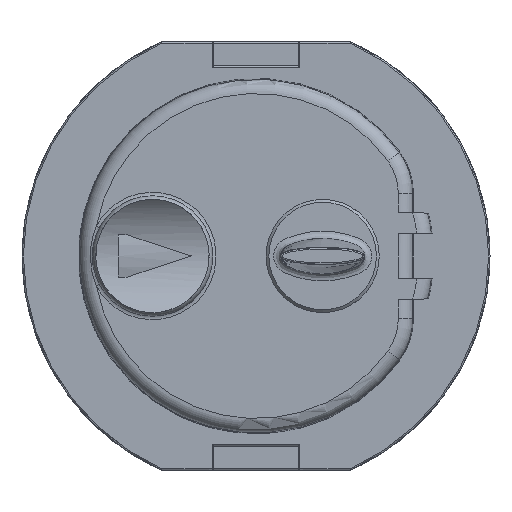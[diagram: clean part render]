
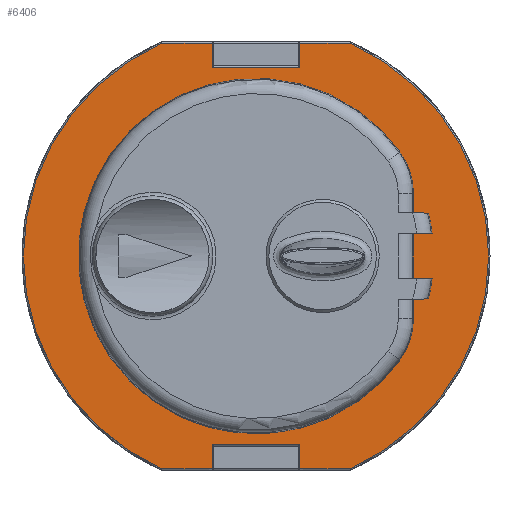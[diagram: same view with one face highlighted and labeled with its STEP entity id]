
A CAD part, front view. The second image highlights one B-rep face of the part: STEP entity #6406.
In plain terms, the highlighted planar face has unit normal (0, -1, 0).
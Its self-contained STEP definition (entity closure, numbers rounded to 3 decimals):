
#4102=LINE('',#19953,#4466);
#4104=LINE('',#19964,#4468);
#4105=LINE('',#19978,#4469);
#4108=LINE('',#19984,#4472);
#4110=LINE('',#19989,#4474);
#4112=LINE('',#19993,#4476);
#4114=LINE('',#20004,#4478);
#4116=LINE('',#20010,#4480);
#4118=LINE('',#20024,#4482);
#4120=LINE('',#20027,#4484);
#4150=LINE('',#20229,#4514);
#4152=LINE('',#20240,#4516);
#4156=LINE('',#20250,#4520);
#4158=LINE('',#20261,#4522);
#4161=LINE('',#20271,#4525);
#4163=LINE('',#20279,#4527);
#4165=LINE('',#20283,#4529);
#4466=VECTOR('',#15390,1.);
#4468=VECTOR('',#15396,1.);
#4469=VECTOR('',#15407,1.);
#4472=VECTOR('',#15414,1.);
#4474=VECTOR('',#15420,1.);
#4476=VECTOR('',#15424,1.);
#4478=VECTOR('',#15430,1.);
#4480=VECTOR('',#15436,1.);
#4482=VECTOR('',#15448,1.);
#4484=VECTOR('',#15452,1.);
#4514=VECTOR('',#15626,1.);
#4516=VECTOR('',#15630,1.);
#4520=VECTOR('',#15640,1.);
#4522=VECTOR('',#15644,1.);
#4525=VECTOR('',#15649,1.);
#4527=VECTOR('',#15653,1.);
#4529=VECTOR('',#15657,1.);
#5467=PLANE('',#13421);
#6406=ADVANCED_FACE('',(#6609,#6610),#5467,.T.);
#6609=FACE_BOUND('',#7177,.T.);
#6610=FACE_BOUND('',#7178,.T.);
#7177=EDGE_LOOP('',(#9682,#9683,#9684,#9685,#9686,#9687,#9688,#9689,#9690,
#9691,#9692,#9693));
#7178=EDGE_LOOP('',(#9694,#9695,#9696,#9697,#9698,#9699,#9700,#9701,#9702,
#9703,#9704,#9705));
#9682=ORIENTED_EDGE('',*,*,#12094,.F.);
#9683=ORIENTED_EDGE('',*,*,#12074,.F.);
#9684=ORIENTED_EDGE('',*,*,#12071,.T.);
#9685=ORIENTED_EDGE('',*,*,#12069,.T.);
#9686=ORIENTED_EDGE('',*,*,#12102,.F.);
#9687=ORIENTED_EDGE('',*,*,#12077,.T.);
#9688=ORIENTED_EDGE('',*,*,#12079,.F.);
#9689=ORIENTED_EDGE('',*,*,#12082,.T.);
#9690=ORIENTED_EDGE('',*,*,#12092,.F.);
#9691=ORIENTED_EDGE('',*,*,#12086,.F.);
#9692=ORIENTED_EDGE('',*,*,#12091,.T.);
#9693=ORIENTED_EDGE('',*,*,#12089,.T.);
#9694=ORIENTED_EDGE('',*,*,#11959,.T.);
#9695=ORIENTED_EDGE('',*,*,#11952,.T.);
#9696=ORIENTED_EDGE('',*,*,#11956,.T.);
#9697=ORIENTED_EDGE('',*,*,#11961,.T.);
#9698=ORIENTED_EDGE('',*,*,#11968,.T.);
#9699=ORIENTED_EDGE('',*,*,#11974,.T.);
#9700=ORIENTED_EDGE('',*,*,#11979,.T.);
#9701=ORIENTED_EDGE('',*,*,#11985,.T.);
#9702=ORIENTED_EDGE('',*,*,#11983,.T.);
#9703=ORIENTED_EDGE('',*,*,#11977,.T.);
#9704=ORIENTED_EDGE('',*,*,#11970,.T.);
#9705=ORIENTED_EDGE('',*,*,#11965,.T.);
#10699=VERTEX_POINT('',#19952);
#10700=VERTEX_POINT('',#19954);
#10702=VERTEX_POINT('',#19963);
#10703=VERTEX_POINT('',#19970);
#10706=VERTEX_POINT('',#19977);
#10707=VERTEX_POINT('',#19982);
#10708=VERTEX_POINT('',#19988);
#10710=VERTEX_POINT('',#19994);
#10712=VERTEX_POINT('',#20003);
#10713=VERTEX_POINT('',#20007);
#10716=VERTEX_POINT('',#20017);
#10717=VERTEX_POINT('',#20022);
#10767=VERTEX_POINT('',#20222);
#10768=VERTEX_POINT('',#20224);
#10769=VERTEX_POINT('',#20228);
#10770=VERTEX_POINT('',#20238);
#10771=VERTEX_POINT('',#20243);
#10772=VERTEX_POINT('',#20245);
#10773=VERTEX_POINT('',#20249);
#10774=VERTEX_POINT('',#20260);
#10775=VERTEX_POINT('',#20267);
#10776=VERTEX_POINT('',#20270);
#10777=VERTEX_POINT('',#20278);
#10778=VERTEX_POINT('',#20280);
#11952=EDGE_CURVE('',#10700,#10699,#4102,.T.);
#11956=EDGE_CURVE('',#10699,#10702,#4104,.T.);
#11959=EDGE_CURVE('',#10703,#10700,#12424,.T.);
#11961=EDGE_CURVE('',#10702,#10706,#4105,.T.);
#11965=EDGE_CURVE('',#10707,#10703,#4108,.T.);
#11968=EDGE_CURVE('',#10706,#10708,#4110,.T.);
#11970=EDGE_CURVE('',#10710,#10707,#4112,.T.);
#11974=EDGE_CURVE('',#10708,#10712,#4114,.T.);
#11977=EDGE_CURVE('',#10713,#10710,#4116,.T.);
#11979=EDGE_CURVE('',#10712,#10716,#12425,.T.);
#11983=EDGE_CURVE('',#10717,#10713,#4118,.T.);
#11985=EDGE_CURVE('',#10716,#10717,#4120,.T.);
#12069=EDGE_CURVE('',#10767,#10768,#12466,.T.);
#12071=EDGE_CURVE('',#10769,#10767,#4150,.T.);
#12074=EDGE_CURVE('',#10769,#10770,#4152,.T.);
#12077=EDGE_CURVE('',#10771,#10772,#12467,.T.);
#12079=EDGE_CURVE('',#10773,#10772,#4156,.T.);
#12082=EDGE_CURVE('',#10773,#10774,#4158,.T.);
#12086=EDGE_CURVE('',#10776,#10775,#4161,.T.);
#12089=EDGE_CURVE('',#10778,#10777,#4163,.T.);
#12091=EDGE_CURVE('',#10776,#10778,#4165,.T.);
#12092=EDGE_CURVE('',#10775,#10774,#12468,.T.);
#12094=EDGE_CURVE('',#10770,#10777,#12470,.T.);
#12102=EDGE_CURVE('',#10771,#10768,#12472,.T.);
#12424=CIRCLE('',#13309,16.4);
#12425=CIRCLE('',#13322,16.4);
#12466=CIRCLE('',#13397,5.);
#12467=CIRCLE('',#13401,5.);
#12468=CIRCLE('',#13408,12.525);
#12470=CIRCLE('',#13412,12.525);
#12472=CIRCLE('',#13420,12.525);
#13309=AXIS2_PLACEMENT_3D('',#19973,#15401,#15402);
#13322=AXIS2_PLACEMENT_3D('',#20018,#15439,#15440);
#13397=AXIS2_PLACEMENT_3D('',#20225,#15621,#15622);
#13401=AXIS2_PLACEMENT_3D('',#20246,#15635,#15636);
#13408=AXIS2_PLACEMENT_3D('',#20285,#15660,#15661);
#13412=AXIS2_PLACEMENT_3D('',#20290,#15668,#15669);
#13420=AXIS2_PLACEMENT_3D('',#20308,#15689,#15690);
#13421=AXIS2_PLACEMENT_3D('',#20309,#15691,#15692);
#15390=DIRECTION('',(-1.,0.,0.));
#15396=DIRECTION('',(0.,0.,-1.));
#15401=DIRECTION('',(0.,-1.,0.));
#15402=DIRECTION('',(0.,0.,-1.));
#15407=DIRECTION('',(-1.,0.,0.));
#15414=DIRECTION('',(1.,0.,0.));
#15420=DIRECTION('',(0.,0.,1.));
#15424=DIRECTION('',(0.,0.,-1.));
#15430=DIRECTION('',(-1.,0.,0.));
#15436=DIRECTION('',(1.,0.,0.));
#15439=DIRECTION('',(0.,-1.,0.));
#15440=DIRECTION('',(0.,0.,-1.));
#15448=DIRECTION('',(0.,0.,1.));
#15452=DIRECTION('',(1.,0.,0.));
#15621=DIRECTION('',(0.,1.,0.));
#15622=DIRECTION('',(0.,0.,-1.));
#15626=DIRECTION('',(0.,0.,-1.));
#15630=DIRECTION('',(1.,0.,0.026));
#15635=DIRECTION('',(0.,1.,0.));
#15636=DIRECTION('',(0.,0.,-1.));
#15640=DIRECTION('',(0.,0.,1.));
#15644=DIRECTION('',(1.,0.,-0.026));
#15649=DIRECTION('',(1.,0.,0.026));
#15653=DIRECTION('',(1.,0.,-0.026));
#15657=DIRECTION('',(0.,0.,-1.));
#15660=DIRECTION('',(0.,-1.,0.));
#15661=DIRECTION('',(0.,0.,-1.));
#15668=DIRECTION('',(0.,-1.,0.));
#15669=DIRECTION('',(0.,0.,-1.));
#15689=DIRECTION('',(0.,-1.,0.));
#15690=DIRECTION('',(0.,0.,-1.));
#15691=DIRECTION('',(0.,-1.,0.));
#15692=DIRECTION('',(0.,0.,-1.));
#19952=CARTESIAN_POINT('',(3.1,0.6,15.));
#19953=CARTESIAN_POINT('',(-12.525,0.6,15.));
#19954=CARTESIAN_POINT('',(6.63,0.6,15.));
#19963=CARTESIAN_POINT('',(3.1,0.6,13.3));
#19964=CARTESIAN_POINT('',(3.1,0.6,0.));
#19970=CARTESIAN_POINT('',(6.63,0.6,-15.));
#19973=CARTESIAN_POINT('',(0.,0.6,0.));
#19977=CARTESIAN_POINT('',(-3.1,0.6,13.3));
#19978=CARTESIAN_POINT('',(-12.525,0.6,13.3));
#19982=CARTESIAN_POINT('',(3.1,0.6,-15.));
#19984=CARTESIAN_POINT('',(-12.525,0.6,-15.));
#19988=CARTESIAN_POINT('',(-3.1,0.6,15.));
#19989=CARTESIAN_POINT('',(-3.1,0.6,15.1));
#19993=CARTESIAN_POINT('',(3.1,0.6,-15.1));
#19994=CARTESIAN_POINT('',(3.1,0.6,-13.3));
#20003=CARTESIAN_POINT('',(-6.63,0.6,15.));
#20004=CARTESIAN_POINT('',(-12.525,0.6,15.));
#20007=CARTESIAN_POINT('',(-3.1,0.6,-13.3));
#20010=CARTESIAN_POINT('',(-12.525,0.6,-13.3));
#20017=CARTESIAN_POINT('',(-6.63,0.6,-15.));
#20018=CARTESIAN_POINT('',(0.,0.6,0.));
#20022=CARTESIAN_POINT('',(-3.1,0.6,-15.));
#20024=CARTESIAN_POINT('',(-3.1,0.6,0.));
#20027=CARTESIAN_POINT('',(-12.525,0.6,-15.));
#20222=CARTESIAN_POINT('',(11.1,0.6,-4.406));
#20224=CARTESIAN_POINT('',(10.153,0.6,-7.334));
#20225=CARTESIAN_POINT('',(6.1,0.6,-4.406));
#20228=CARTESIAN_POINT('',(11.1,0.6,-3.05));
#20229=CARTESIAN_POINT('',(11.1,0.6,0.));
#20238=CARTESIAN_POINT('',(12.155,0.6,-3.022));
#20240=CARTESIAN_POINT('',(11.1,0.6,-3.05));
#20243=CARTESIAN_POINT('',(10.153,0.6,7.334));
#20245=CARTESIAN_POINT('',(11.1,0.6,4.406));
#20246=CARTESIAN_POINT('',(6.1,0.6,4.406));
#20249=CARTESIAN_POINT('',(11.1,0.6,3.05));
#20250=CARTESIAN_POINT('',(11.1,0.6,0.));
#20260=CARTESIAN_POINT('',(12.155,0.6,3.022));
#20261=CARTESIAN_POINT('',(-12.429,0.6,3.666));
#20267=CARTESIAN_POINT('',(12.42,0.6,1.62));
#20270=CARTESIAN_POINT('',(11.1,0.6,1.585));
#20271=CARTESIAN_POINT('',(11.1,0.6,1.585));
#20278=CARTESIAN_POINT('',(12.42,0.6,-1.62));
#20279=CARTESIAN_POINT('',(-12.55,0.6,-0.966));
#20280=CARTESIAN_POINT('',(11.1,0.6,-1.585));
#20283=CARTESIAN_POINT('',(11.1,0.6,0.));
#20285=CARTESIAN_POINT('',(0.,0.6,0.));
#20290=CARTESIAN_POINT('',(0.,0.6,0.));
#20308=CARTESIAN_POINT('',(0.,0.6,0.));
#20309=CARTESIAN_POINT('',(-12.525,0.6,0.));
